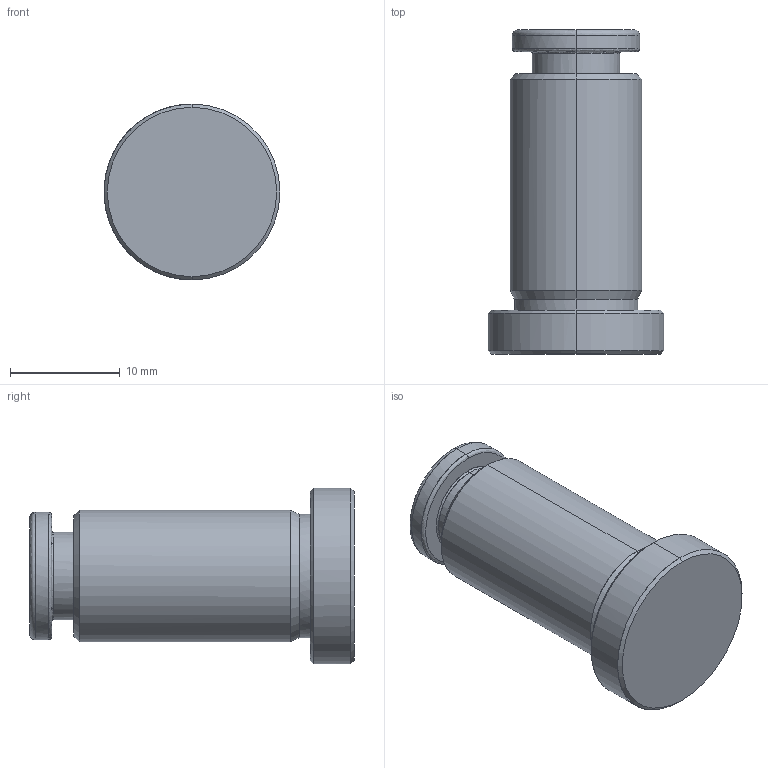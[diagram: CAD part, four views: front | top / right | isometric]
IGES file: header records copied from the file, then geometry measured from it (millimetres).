
Start section: START RECORD GO HERE.
Global section: file name: be041216.igs; native system: DASSAULT SYSTEMES CATIA V5 R20 - www.3ds.com; preprocessor: CATIA Version 5 Release 20 ; author: Utente; organization: NB04-ASUS; date: 20201103.203928; units: millimetre
Bounding box: 16 x 29.5 x 16 mm (x, y, z)
Surface area: 3301.1 mm2 (no closed solid volume)
Topology: 0 solids, 0 shells, 209 faces, 978 edges, 944 vertices
Faces by surface type: revolution 132, bspline 63, plane 14
